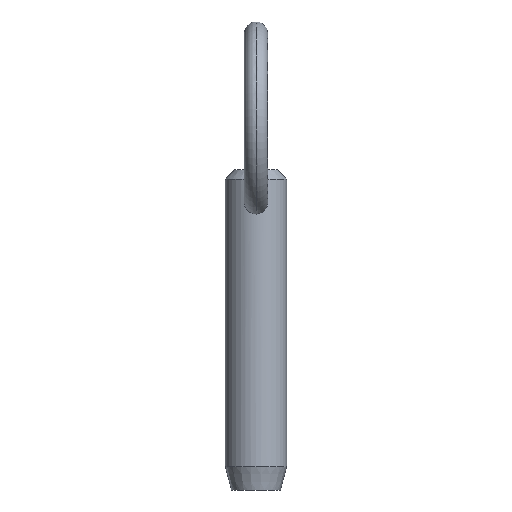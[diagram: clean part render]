
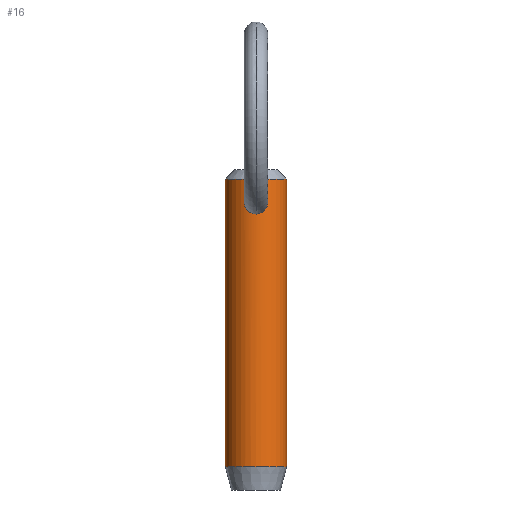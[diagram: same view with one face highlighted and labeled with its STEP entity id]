
A CAD part, front view. The second image highlights one B-rep face of the part: STEP entity #16.
In plain terms, the highlighted cylindrical face has radius 3.965 mm (diameter 7.93 mm), a partial arc.
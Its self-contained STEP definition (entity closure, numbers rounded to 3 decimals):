
#12 = ORIENTED_EDGE ( 'NONE', *, *, #314, .T. ) ;
#16 = ADVANCED_FACE ( 'NONE', ( #316, #325 ), #130, .T. ) ;
#24 = CARTESIAN_POINT ( 'NONE',  ( 1.499, -3.671, 27.397 ) ) ;
#31 = CARTESIAN_POINT ( 'NONE',  ( 0., -3.965, 26.035 ) ) ;
#33 = CARTESIAN_POINT ( 'NONE',  ( 0., -3.965, 26.035 ) ) ;
#38 = CARTESIAN_POINT ( 'NONE',  ( -0.206, -3.961, 29.234 ) ) ;
#54 = CARTESIAN_POINT ( 'NONE',  ( 0.404, -3.946, 29.182 ) ) ;
#55 = CARTESIAN_POINT ( 'NONE',  ( 3.965, 0., -6.52 ) ) ;
#57 = CARTESIAN_POINT ( 'NONE',  ( 0.498, -3.935, 29.144 ) ) ;
#58 = VERTEX_POINT ( 'NONE', #500 ) ;
#59 = CARTESIAN_POINT ( 'NONE',  ( 0.77, -3.894, 29. ) ) ;
#64 = CARTESIAN_POINT ( 'NONE',  ( 0.782, -3.888, 26.237 ) ) ;
#65 = CARTESIAN_POINT ( 'NONE',  ( -1.229, -3.77, 26.639 ) ) ;
#66 = CARTESIAN_POINT ( 'NONE',  ( -3.965, 0., 25.4 ) ) ;
#71 = CARTESIAN_POINT ( 'NONE',  ( 0., 0., 25.4 ) ) ;
#79 = CARTESIAN_POINT ( 'NONE',  ( -0.403, -3.946, 29.182 ) ) ;
#80 = EDGE_CURVE ( 'NONE', #401, #448, #91, .T. ) ;
#82 = CARTESIAN_POINT ( 'NONE',  ( 3.965, 0., 30.55 ) ) ;
#91 = B_SPLINE_CURVE_WITH_KNOTS ( 'NONE', 3,
 ( #31, #111, #153, #193, #465, #186, #65, #334, #231, #434, #156, #160, #346, #475, #468, #387, #204, #470, #79, #38, #511, #163 ),
 .UNSPECIFIED., .F., .F.,
 ( 4, 2, 2, 2, 2, 2, 2, 2, 2, 2, 4 ),
 ( 0.009, 0.01, 0.01, 0.011, 0.011, 0.012, 0.012, 0.013, 0.013, 0.014, 0.014 ),
 .UNSPECIFIED. ) ;
#94 = AXIS2_PLACEMENT_3D ( 'NONE', #71, #255, #462 ) ;
#98 = ORIENTED_EDGE ( 'NONE', *, *, #235, .T. ) ;
#102 = AXIS2_PLACEMENT_3D ( 'NONE', #216, #405, #493 ) ;
#106 = CARTESIAN_POINT ( 'NONE',  ( 1.237, -3.77, 26.631 ) ) ;
#108 = CARTESIAN_POINT ( 'NONE',  ( 0.949, -3.851, 26.349 ) ) ;
#111 = CARTESIAN_POINT ( 'NONE',  ( -0.205, -3.965, 26.035 ) ) ;
#115 = CARTESIAN_POINT ( 'NONE',  ( 0., 0., -6.52 ) ) ;
#117 = EDGE_LOOP ( 'NONE', ( #290, #161, #481, #98 ) ) ;
#129 = VECTOR ( 'NONE', #201, 1000. ) ;
#130 = CYLINDRICAL_SURFACE ( 'NONE', #94, 3.965 ) ;
#153 = CARTESIAN_POINT ( 'NONE',  ( -0.41, -3.948, 26.074 ) ) ;
#156 = CARTESIAN_POINT ( 'NONE',  ( -1.508, -3.667, 27.397 ) ) ;
#160 = CARTESIAN_POINT ( 'NONE',  ( -1.488, -3.675, 27.805 ) ) ;
#161 = ORIENTED_EDGE ( 'NONE', *, *, #298, .T. ) ;
#163 = CARTESIAN_POINT ( 'NONE',  ( 0., -3.965, 29.247 ) ) ;
#166 = VERTEX_POINT ( 'NONE', #82 ) ;
#171 = CARTESIAN_POINT ( 'NONE',  ( 0., -3.965, 29.247 ) ) ;
#178 = EDGE_CURVE ( 'NONE', #166, #252, #422, .T. ) ;
#186 = CARTESIAN_POINT ( 'NONE',  ( -1.168, -3.79, 26.559 ) ) ;
#187 = CARTESIAN_POINT ( 'NONE',  ( 0.693, -3.905, 26.19 ) ) ;
#193 = CARTESIAN_POINT ( 'NONE',  ( -0.788, -3.891, 26.228 ) ) ;
#196 = VERTEX_POINT ( 'NONE', #228 ) ;
#197 = DIRECTION ( 'NONE',  ( 0., 0., 1. ) ) ;
#201 = DIRECTION ( 'NONE',  ( 0., 0., -1. ) ) ;
#204 = CARTESIAN_POINT ( 'NONE',  ( -0.77, -3.894, 29. ) ) ;
#216 = CARTESIAN_POINT ( 'NONE',  ( 0., 0., 30.55 ) ) ;
#218 = CARTESIAN_POINT ( 'NONE',  ( 0., -3.965, 26.035 ) ) ;
#223 = CARTESIAN_POINT ( 'NONE',  ( 1.346, -3.73, 26.808 ) ) ;
#228 = CARTESIAN_POINT ( 'NONE',  ( -3.965, 0., -6.52 ) ) ;
#231 = CARTESIAN_POINT ( 'NONE',  ( -1.379, -3.718, 26.903 ) ) ;
#235 = EDGE_CURVE ( 'NONE', #196, #252, #502, .T. ) ;
#244 = CARTESIAN_POINT ( 'NONE',  ( 1.186, -3.786, 28.559 ) ) ;
#251 = B_SPLINE_CURVE_WITH_KNOTS ( 'NONE', 3,
 ( #171, #445, #284, #54, #57, #59, #490, #244, #322, #324, #365, #407, #451, #253, #24, #420, #293, #223, #106, #503, #108, #64, #187, #296, #257, #218 ),
 .UNSPECIFIED., .F., .F.,
 ( 4, 2, 2, 2, 2, 2, 2, 2, 2, 2, 2, 2, 4 ),
 ( 0.004, 0.005, 0.005, 0.005, 0.006, 0.006, 0.007, 0.007, 0.007, 0.008, 0.008, 0.008, 0.009 ),
 .UNSPECIFIED. ) ;
#252 = VERTEX_POINT ( 'NONE', #55 ) ;
#253 = CARTESIAN_POINT ( 'NONE',  ( 1.503, -3.669, 27.499 ) ) ;
#255 = DIRECTION ( 'NONE',  ( 0., 0., -1. ) ) ;
#256 = AXIS2_PLACEMENT_3D ( 'NONE', #115, #197, #382 ) ;
#257 = CARTESIAN_POINT ( 'NONE',  ( 0.205, -3.965, 26.035 ) ) ;
#282 = CIRCLE ( 'NONE', #102, 3.965 ) ;
#284 = CARTESIAN_POINT ( 'NONE',  ( 0.205, -3.961, 29.234 ) ) ;
#290 = ORIENTED_EDGE ( 'NONE', *, *, #178, .F. ) ;
#293 = CARTESIAN_POINT ( 'NONE',  ( 1.447, -3.692, 27.093 ) ) ;
#296 = CARTESIAN_POINT ( 'NONE',  ( 0.409, -3.948, 26.074 ) ) ;
#298 = EDGE_CURVE ( 'NONE', #166, #58, #282, .T. ) ;
#314 = EDGE_CURVE ( 'NONE', #448, #401, #251, .T. ) ;
#315 = VECTOR ( 'NONE', #455, 1000. ) ;
#316 = FACE_OUTER_BOUND ( 'NONE', #117, .T. ) ;
#317 = ORIENTED_EDGE ( 'NONE', *, *, #80, .T. ) ;
#322 = CARTESIAN_POINT ( 'NONE',  ( 1.291, -3.75, 28.383 ) ) ;
#324 = CARTESIAN_POINT ( 'NONE',  ( 1.404, -3.708, 28.101 ) ) ;
#325 = FACE_BOUND ( 'NONE', #423, .T. ) ;
#334 = CARTESIAN_POINT ( 'NONE',  ( -1.335, -3.734, 26.81 ) ) ;
#346 = CARTESIAN_POINT ( 'NONE',  ( -1.441, -3.695, 28.008 ) ) ;
#348 = CARTESIAN_POINT ( 'NONE',  ( 0., -3.965, 29.247 ) ) ;
#364 = EDGE_CURVE ( 'NONE', #58, #196, #446, .T. ) ;
#365 = CARTESIAN_POINT ( 'NONE',  ( 1.434, -3.697, 28.005 ) ) ;
#382 = DIRECTION ( 'NONE',  ( -1., 0., 0. ) ) ;
#387 = CARTESIAN_POINT ( 'NONE',  ( -0.925, -3.858, 28.868 ) ) ;
#401 = VERTEX_POINT ( 'NONE', #33 ) ;
#405 = DIRECTION ( 'NONE',  ( 0., 0., -1. ) ) ;
#407 = CARTESIAN_POINT ( 'NONE',  ( 1.479, -3.679, 27.807 ) ) ;
#420 = CARTESIAN_POINT ( 'NONE',  ( 1.471, -3.682, 27.194 ) ) ;
#422 = LINE ( 'NONE', #429, #129 ) ;
#423 = EDGE_LOOP ( 'NONE', ( #12, #317 ) ) ;
#429 = CARTESIAN_POINT ( 'NONE',  ( 3.965, 0., 25.4 ) ) ;
#434 = CARTESIAN_POINT ( 'NONE',  ( -1.48, -3.679, 27.189 ) ) ;
#445 = CARTESIAN_POINT ( 'NONE',  ( 0.102, -3.965, 29.247 ) ) ;
#446 = LINE ( 'NONE', #66, #315 ) ;
#448 = VERTEX_POINT ( 'NONE', #348 ) ;
#451 = CARTESIAN_POINT ( 'NONE',  ( 1.493, -3.673, 27.704 ) ) ;
#455 = DIRECTION ( 'NONE',  ( 0., 0., -1. ) ) ;
#462 = DIRECTION ( 'NONE',  ( -1., 0., 0. ) ) ;
#465 = CARTESIAN_POINT ( 'NONE',  ( -0.957, -3.85, 26.341 ) ) ;
#468 = CARTESIAN_POINT ( 'NONE',  ( -1.186, -3.786, 28.56 ) ) ;
#470 = CARTESIAN_POINT ( 'NONE',  ( -0.498, -3.935, 29.144 ) ) ;
#475 = CARTESIAN_POINT ( 'NONE',  ( -1.29, -3.75, 28.385 ) ) ;
#481 = ORIENTED_EDGE ( 'NONE', *, *, #364, .T. ) ;
#490 = CARTESIAN_POINT ( 'NONE',  ( 0.925, -3.858, 28.868 ) ) ;
#493 = DIRECTION ( 'NONE',  ( 1., 0., 0. ) ) ;
#500 = CARTESIAN_POINT ( 'NONE',  ( -3.965, 0., 30.55 ) ) ;
#502 = CIRCLE ( 'NONE', #256, 3.965 ) ;
#503 = CARTESIAN_POINT ( 'NONE',  ( 1.028, -3.83, 26.415 ) ) ;
#511 = CARTESIAN_POINT ( 'NONE',  ( -0.102, -3.965, 29.247 ) ) ;
